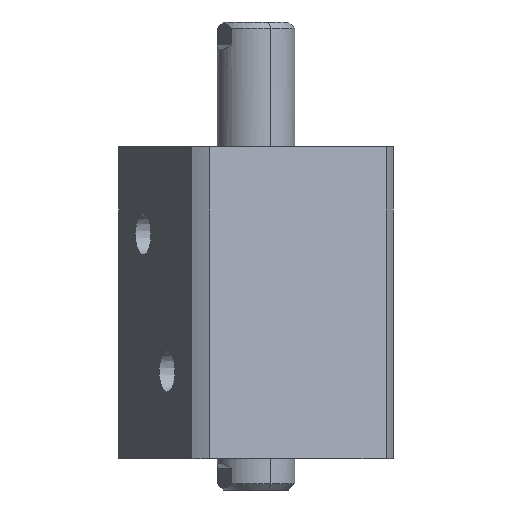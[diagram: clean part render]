
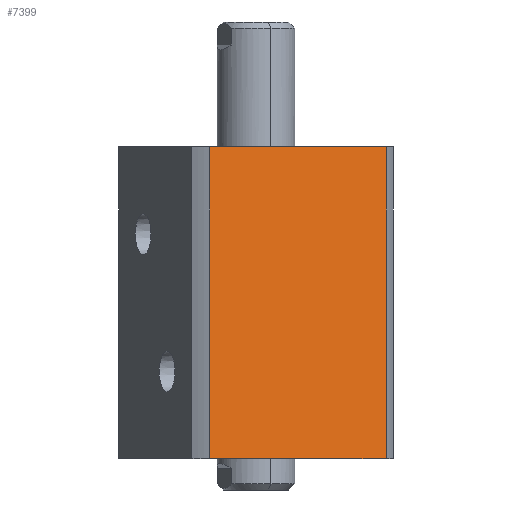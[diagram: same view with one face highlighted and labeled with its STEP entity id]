
A CAD part, front view. The second image highlights one B-rep face of the part: STEP entity #7399.
In plain terms, the highlighted planar face has unit normal (0.383, -0.924, 0) as drawn and (1, 0, 0) by its records, which use the part's own axes.
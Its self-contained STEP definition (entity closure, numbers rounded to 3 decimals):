
#347 = VECTOR ( 'NONE', #1231, 1000. ) ;
#798 = CARTESIAN_POINT ( 'NONE',  ( 35., 30.615, 0. ) ) ;
#1193 = ORIENTED_EDGE ( 'NONE', *, *, #3863, .F. ) ;
#1231 = DIRECTION ( 'NONE',  ( 0., 1., 0. ) ) ;
#2008 = LINE ( 'NONE', #3936, #3887 ) ;
#2050 = CARTESIAN_POINT ( 'NONE',  ( 35., 35., 0. ) ) ;
#2167 = PLANE ( 'NONE',  #10157 ) ;
#2449 = CARTESIAN_POINT ( 'NONE',  ( 35., -30.615, 0. ) ) ;
#2981 = DIRECTION ( 'NONE',  ( 0., -1., 0. ) ) ;
#3093 = ORIENTED_EDGE ( 'NONE', *, *, #4000, .T. ) ;
#3269 = LINE ( 'NONE', #8919, #7484 ) ;
#3863 = EDGE_CURVE ( 'NONE', #7409, #8023, #3269, .T. ) ;
#3887 = VECTOR ( 'NONE', #9500, 1000. ) ;
#3936 = CARTESIAN_POINT ( 'NONE',  ( 35., 30.615, -200. ) ) ;
#3994 = DIRECTION ( 'NONE',  ( 0., 0., 1. ) ) ;
#4000 = EDGE_CURVE ( 'NONE', #5691, #8909, #6747, .T. ) ;
#4201 = EDGE_CURVE ( 'NONE', #8023, #8909, #2008, .T. ) ;
#4884 = EDGE_CURVE ( 'NONE', #5691, #7409, #9843, .T. ) ;
#5333 = CARTESIAN_POINT ( 'NONE',  ( 35., 35., 100. ) ) ;
#5639 = VECTOR ( 'NONE', #3994, 1000. ) ;
#5691 = VERTEX_POINT ( 'NONE', #2449 ) ;
#6747 = LINE ( 'NONE', #2050, #347 ) ;
#7068 = ORIENTED_EDGE ( 'NONE', *, *, #4884, .F. ) ;
#7099 = FACE_OUTER_BOUND ( 'NONE', #7818, .T. ) ;
#7156 = CARTESIAN_POINT ( 'NONE',  ( 35., -30.615, -200. ) ) ;
#7300 = ORIENTED_EDGE ( 'NONE', *, *, #4201, .F. ) ;
#7399 = ADVANCED_FACE ( 'NONE', ( #7099 ), #2167, .F. ) ;
#7409 = VERTEX_POINT ( 'NONE', #9288 ) ;
#7484 = VECTOR ( 'NONE', #8910, 1000. ) ;
#7731 = DIRECTION ( 'NONE',  ( -1., 0., 0. ) ) ;
#7818 = EDGE_LOOP ( 'NONE', ( #7068, #3093, #7300, #1193 ) ) ;
#8023 = VERTEX_POINT ( 'NONE', #8861 ) ;
#8861 = CARTESIAN_POINT ( 'NONE',  ( 35., 30.615, 100. ) ) ;
#8909 = VERTEX_POINT ( 'NONE', #798 ) ;
#8910 = DIRECTION ( 'NONE',  ( 0., 1., 0. ) ) ;
#8919 = CARTESIAN_POINT ( 'NONE',  ( 35., 35., 100. ) ) ;
#9288 = CARTESIAN_POINT ( 'NONE',  ( 35., -30.615, 100. ) ) ;
#9500 = DIRECTION ( 'NONE',  ( 0., 0., -1. ) ) ;
#9843 = LINE ( 'NONE', #7156, #5639 ) ;
#10157 = AXIS2_PLACEMENT_3D ( 'NONE', #5333, #7731, #2981 ) ;
